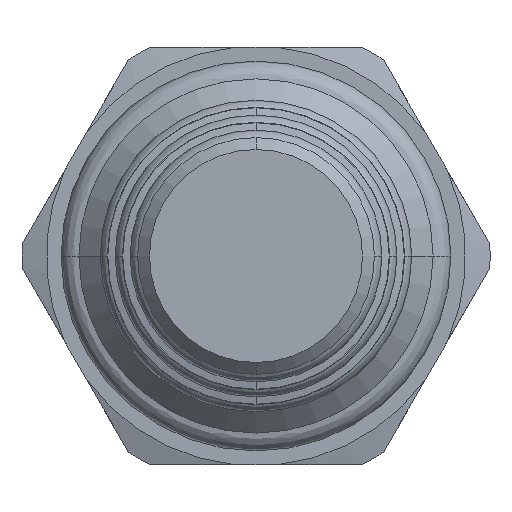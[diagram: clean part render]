
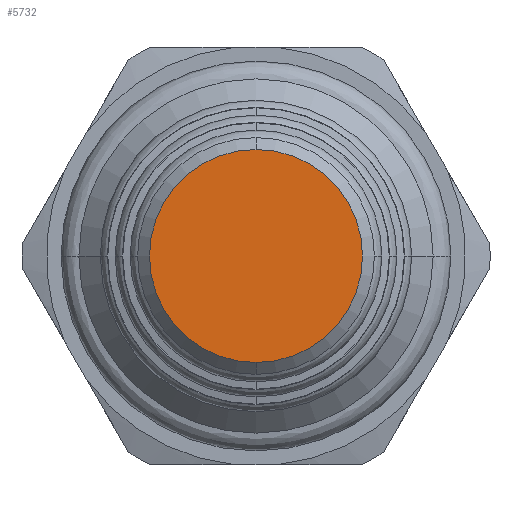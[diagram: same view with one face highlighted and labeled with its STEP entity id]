
A CAD part, front view. The second image highlights one B-rep face of the part: STEP entity #5732.
In plain terms, the highlighted planar face has unit normal (0, -1, 0).
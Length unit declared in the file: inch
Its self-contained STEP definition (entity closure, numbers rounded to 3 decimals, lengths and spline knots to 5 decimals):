
#2061=CARTESIAN_POINT('',(0.,-2.148,0.));
#2062=DIRECTION('',(0.,-1.,0.));
#2063=DIRECTION('',(0.,0.,1.));
#2064=AXIS2_PLACEMENT_3D('',#2061,#2062,#2063);
#2071=CARTESIAN_POINT('',(0.,-2.148,0.));
#2072=DIRECTION('',(0.,-1.,0.));
#2073=DIRECTION('',(0.,0.,-1.));
#2074=AXIS2_PLACEMENT_3D('',#2071,#2072,#2073);
#2521=CARTESIAN_POINT('',(0.,-2.148,0.2235));
#2522=CARTESIAN_POINT('',(0.,-2.148,-0.2235));
#2523=VERTEX_POINT('',#2521);
#2524=VERTEX_POINT('',#2522);
#5722=CARTESIAN_POINT('',(0.,-2.148,0.));
#5723=DIRECTION('',(0.,-1.,0.));
#5724=DIRECTION('',(-1.,0.,0.));
#5725=AXIS2_PLACEMENT_3D('',#5722,#5723,#5724);
#5726=PLANE('',#5725);
#5728=ORIENTED_EDGE('',*,*,#5727,.F.);
#5729=ORIENTED_EDGE('',*,*,#5712,.F.);
#5730=EDGE_LOOP('',(#5728,#5729));
#5731=FACE_OUTER_BOUND('',#5730,.F.);
#5732=ADVANCED_FACE('',(#5731),#5726,.T.);
#2065=CIRCLE('',#2064,0.2235);
#2075=CIRCLE('',#2074,0.2235);
#5712=EDGE_CURVE('',#2523,#2524,#2065,.T.);
#5727=EDGE_CURVE('',#2524,#2523,#2075,.T.);
